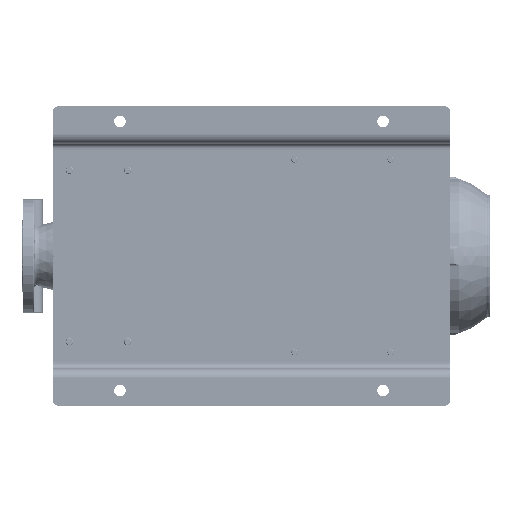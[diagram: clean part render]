
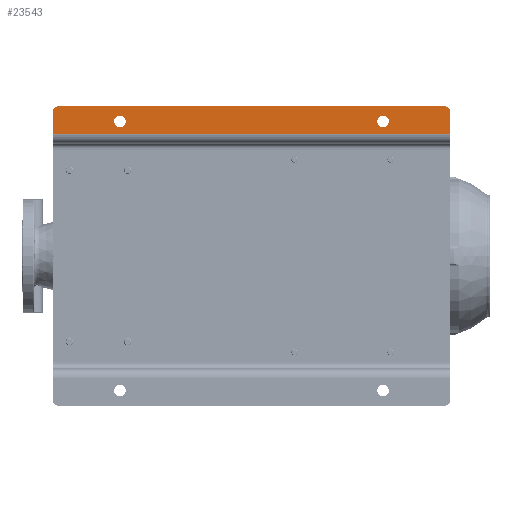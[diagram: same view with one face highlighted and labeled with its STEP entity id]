
A CAD part, front view. The second image highlights one B-rep face of the part: STEP entity #23543.
In plain terms, the highlighted planar face has unit normal (0, -1, 0).
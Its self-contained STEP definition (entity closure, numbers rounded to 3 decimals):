
#1952 = PLANE ( 'NONE',  #92140 ) ;
#3717 = LINE ( 'NONE', #77109, #233007 ) ;
#8432 = EDGE_CURVE ( 'NONE', #57284, #155754, #165688, .T. ) ;
#12035 = CARTESIAN_POINT ( 'NONE',  ( 474.5, 0., -110. ) ) ;
#12252 = DIRECTION ( 'NONE',  ( 0., 0., -1. ) ) ;
#14584 = EDGE_LOOP ( 'NONE', ( #221350, #147346 ) ) ;
#16414 = DIRECTION ( 'NONE',  ( 1., 0., 0. ) ) ;
#16736 = CARTESIAN_POINT ( 'NONE',  ( 455.5, 0., -540. ) ) ;
#16946 = ORIENTED_EDGE ( 'NONE', *, *, #57005, .T. ) ;
#20467 = AXIS2_PLACEMENT_3D ( 'NONE', #112882, #21281, #94764 ) ;
#21281 = DIRECTION ( 'NONE',  ( 0., 1., 0. ) ) ;
#23543 = ADVANCED_FACE ( 'NONE', ( #201869, #113826, #203058 ), #1952, .T. ) ;
#25295 = CIRCLE ( 'NONE', #48530, 10. ) ;
#28986 = CARTESIAN_POINT ( 'NONE',  ( 445., 0., -650. ) ) ;
#29279 = CIRCLE ( 'NONE', #233114, 9.5 ) ;
#30144 = LINE ( 'NONE', #28986, #174152 ) ;
#35724 = EDGE_CURVE ( 'NONE', #233088, #202396, #170752, .T. ) ;
#36429 = VERTEX_POINT ( 'NONE', #117969 ) ;
#36734 = DIRECTION ( 'NONE',  ( 0., 0., -1. ) ) ;
#37641 = DIRECTION ( 'NONE',  ( 0., 0., -1. ) ) ;
#39915 = VECTOR ( 'NONE', #61715, 1000. ) ;
#48530 = AXIS2_PLACEMENT_3D ( 'NONE', #65779, #142866, #138128 ) ;
#48729 = VERTEX_POINT ( 'NONE', #16736 ) ;
#49238 = VERTEX_POINT ( 'NONE', #153045 ) ;
#50853 = CARTESIAN_POINT ( 'NONE',  ( 465., 0., -540. ) ) ;
#53801 = CARTESIAN_POINT ( 'NONE',  ( 490., 0., -10. ) ) ;
#55051 = ORIENTED_EDGE ( 'NONE', *, *, #67786, .T. ) ;
#57005 = EDGE_CURVE ( 'NONE', #48729, #159352, #29279, .T. ) ;
#57284 = VERTEX_POINT ( 'NONE', #198643 ) ;
#61715 = DIRECTION ( 'NONE',  ( 1., 0., 0. ) ) ;
#63302 = VECTOR ( 'NONE', #16414, 1000. ) ;
#65779 = CARTESIAN_POINT ( 'NONE',  ( 480., 0., -10. ) ) ;
#66921 = AXIS2_PLACEMENT_3D ( 'NONE', #71222, #177242, #12252 ) ;
#67786 = EDGE_CURVE ( 'NONE', #36429, #49238, #226716, .T. ) ;
#71222 = CARTESIAN_POINT ( 'NONE',  ( 465., 0., -110. ) ) ;
#73708 = DIRECTION ( 'NONE',  ( 0., 0., -1. ) ) ;
#73881 = CARTESIAN_POINT ( 'NONE',  ( 465., 0., -540. ) ) ;
#76231 = CARTESIAN_POINT ( 'NONE',  ( 429., 0., -650. ) ) ;
#77109 = CARTESIAN_POINT ( 'NONE',  ( 490., 0., -650. ) ) ;
#77162 = DIRECTION ( 'NONE',  ( 0., 0., -1. ) ) ;
#79692 = CARTESIAN_POINT ( 'NONE',  ( 474.5, 0., -540. ) ) ;
#83952 = CARTESIAN_POINT ( 'NONE',  ( 455.5, 0., -110. ) ) ;
#85873 = CIRCLE ( 'NONE', #20467, 9.5 ) ;
#86218 = VERTEX_POINT ( 'NONE', #233338 ) ;
#88165 = EDGE_CURVE ( 'NONE', #202396, #233088, #85873, .T. ) ;
#90577 = CIRCLE ( 'NONE', #140656, 10. ) ;
#91536 = CARTESIAN_POINT ( 'NONE',  ( 480., 0., 0. ) ) ;
#92140 = AXIS2_PLACEMENT_3D ( 'NONE', #112671, #204233, #36734 ) ;
#92263 = AXIS2_PLACEMENT_3D ( 'NONE', #50853, #111033, #73708 ) ;
#94764 = DIRECTION ( 'NONE',  ( 0., 0., -1. ) ) ;
#96221 = CIRCLE ( 'NONE', #92263, 9.5 ) ;
#98630 = EDGE_LOOP ( 'NONE', ( #16946, #143383 ) ) ;
#100611 = ORIENTED_EDGE ( 'NONE', *, *, #205308, .T. ) ;
#111033 = DIRECTION ( 'NONE',  ( 0., 1., 0. ) ) ;
#112671 = CARTESIAN_POINT ( 'NONE',  ( 429., 0., -650. ) ) ;
#112882 = CARTESIAN_POINT ( 'NONE',  ( 465., 0., -110. ) ) ;
#113826 = FACE_BOUND ( 'NONE', #98630, .T. ) ;
#116164 = VERTEX_POINT ( 'NONE', #53801 ) ;
#117969 = CARTESIAN_POINT ( 'NONE',  ( 445., 0., -650. ) ) ;
#128355 = CARTESIAN_POINT ( 'NONE',  ( 429., 0., 0. ) ) ;
#129006 = DIRECTION ( 'NONE',  ( 0., -1., 0. ) ) ;
#138128 = DIRECTION ( 'NONE',  ( 0., 0., -1. ) ) ;
#140049 = EDGE_CURVE ( 'NONE', #159352, #48729, #96221, .T. ) ;
#140656 = AXIS2_PLACEMENT_3D ( 'NONE', #203724, #129006, #77162 ) ;
#142866 = DIRECTION ( 'NONE',  ( 0., -1., 0. ) ) ;
#143383 = ORIENTED_EDGE ( 'NONE', *, *, #140049, .T. ) ;
#147346 = ORIENTED_EDGE ( 'NONE', *, *, #88165, .T. ) ;
#153045 = CARTESIAN_POINT ( 'NONE',  ( 480., 0., -650. ) ) ;
#153447 = ORIENTED_EDGE ( 'NONE', *, *, #176304, .T. ) ;
#155754 = VERTEX_POINT ( 'NONE', #91536 ) ;
#159352 = VERTEX_POINT ( 'NONE', #79692 ) ;
#163646 = ORIENTED_EDGE ( 'NONE', *, *, #236663, .T. ) ;
#165688 = LINE ( 'NONE', #128355, #63302 ) ;
#166609 = EDGE_LOOP ( 'NONE', ( #204458, #100611, #55051, #163646, #153447, #229777 ) ) ;
#170752 = CIRCLE ( 'NONE', #66921, 9.5 ) ;
#174152 = VECTOR ( 'NONE', #232581, 1000. ) ;
#174492 = EDGE_CURVE ( 'NONE', #116164, #155754, #25295, .T. ) ;
#176304 = EDGE_CURVE ( 'NONE', #86218, #116164, #3717, .T. ) ;
#177242 = DIRECTION ( 'NONE',  ( 0., 1., 0. ) ) ;
#198024 = DIRECTION ( 'NONE',  ( 0., 1., 0. ) ) ;
#198643 = CARTESIAN_POINT ( 'NONE',  ( 445., 0., 0. ) ) ;
#201869 = FACE_BOUND ( 'NONE', #14584, .T. ) ;
#202396 = VERTEX_POINT ( 'NONE', #12035 ) ;
#203058 = FACE_OUTER_BOUND ( 'NONE', #166609, .T. ) ;
#203724 = CARTESIAN_POINT ( 'NONE',  ( 480., 0., -640. ) ) ;
#204233 = DIRECTION ( 'NONE',  ( 0., -1., 0. ) ) ;
#204458 = ORIENTED_EDGE ( 'NONE', *, *, #8432, .F. ) ;
#205308 = EDGE_CURVE ( 'NONE', #57284, #36429, #30144, .T. ) ;
#221350 = ORIENTED_EDGE ( 'NONE', *, *, #35724, .T. ) ;
#224074 = DIRECTION ( 'NONE',  ( 0., 0., 1. ) ) ;
#226716 = LINE ( 'NONE', #76231, #39915 ) ;
#229777 = ORIENTED_EDGE ( 'NONE', *, *, #174492, .T. ) ;
#232581 = DIRECTION ( 'NONE',  ( 0., 0., -1. ) ) ;
#233007 = VECTOR ( 'NONE', #224074, 1000. ) ;
#233088 = VERTEX_POINT ( 'NONE', #83952 ) ;
#233114 = AXIS2_PLACEMENT_3D ( 'NONE', #73881, #198024, #37641 ) ;
#233338 = CARTESIAN_POINT ( 'NONE',  ( 490., 0., -640. ) ) ;
#236663 = EDGE_CURVE ( 'NONE', #49238, #86218, #90577, .T. ) ;
